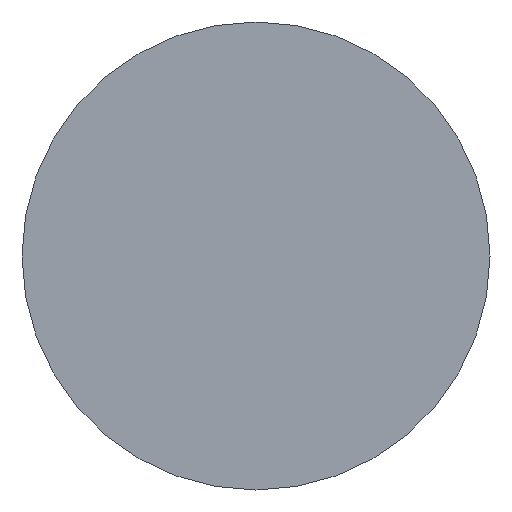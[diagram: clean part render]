
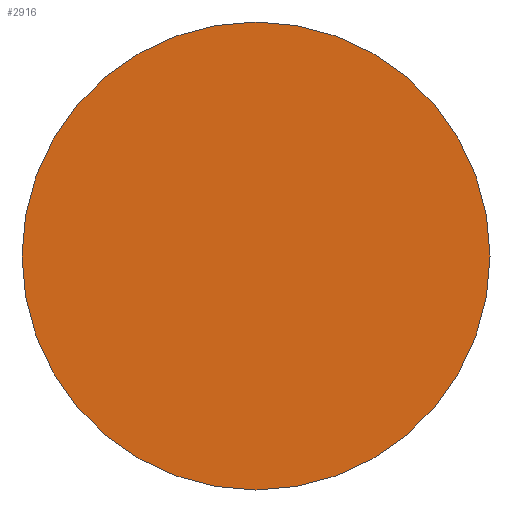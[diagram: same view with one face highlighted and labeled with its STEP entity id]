
A CAD part, front view. The second image highlights one B-rep face of the part: STEP entity #2916.
In plain terms, the highlighted planar face has unit normal (0, -1, 0).
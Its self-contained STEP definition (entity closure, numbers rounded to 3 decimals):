
#197 = CIRCLE ( 'NONE', #1916, 41. ) ;
#260 = CARTESIAN_POINT ( 'NONE',  ( -41., -30., 0. ) ) ;
#932 = EDGE_CURVE ( 'NONE', #3013, #2903, #3243, .T. ) ;
#1152 = DIRECTION ( 'NONE',  ( 0., -1., 0. ) ) ;
#1162 = DIRECTION ( 'NONE',  ( 1., 0., 0. ) ) ;
#1916 = AXIS2_PLACEMENT_3D ( 'NONE', #4040, #1152, #4081 ) ;
#1949 = DIRECTION ( 'NONE',  ( 1., 0., 0. ) ) ;
#2168 = ORIENTED_EDGE ( 'NONE', *, *, #4018, .T. ) ;
#2545 = FACE_OUTER_BOUND ( 'NONE', #3032, .T. ) ;
#2586 = CARTESIAN_POINT ( 'NONE',  ( 41., -30., 0. ) ) ;
#2734 = ORIENTED_EDGE ( 'NONE', *, *, #932, .T. ) ;
#2843 = CARTESIAN_POINT ( 'NONE',  ( 41., -30., 0. ) ) ;
#2903 = VERTEX_POINT ( 'NONE', #2843 ) ;
#2916 = ADVANCED_FACE ( 'NONE', ( #2545 ), #3855, .T. ) ;
#3013 = VERTEX_POINT ( 'NONE', #260 ) ;
#3032 = EDGE_LOOP ( 'NONE', ( #2168, #2734 ) ) ;
#3243 = CIRCLE ( 'NONE', #4128, 41. ) ;
#3424 = AXIS2_PLACEMENT_3D ( 'NONE', #2586, #3641, #1949 ) ;
#3435 = CARTESIAN_POINT ( 'NONE',  ( 0., -30., 0. ) ) ;
#3641 = DIRECTION ( 'NONE',  ( 0., -1., 0. ) ) ;
#3855 = PLANE ( 'NONE',  #3424 ) ;
#4018 = EDGE_CURVE ( 'NONE', #2903, #3013, #197, .T. ) ;
#4040 = CARTESIAN_POINT ( 'NONE',  ( 0., -30., 0. ) ) ;
#4081 = DIRECTION ( 'NONE',  ( 1., 0., 0. ) ) ;
#4128 = AXIS2_PLACEMENT_3D ( 'NONE', #3435, #4207, #1162 ) ;
#4207 = DIRECTION ( 'NONE',  ( 0., -1., 0. ) ) ;
